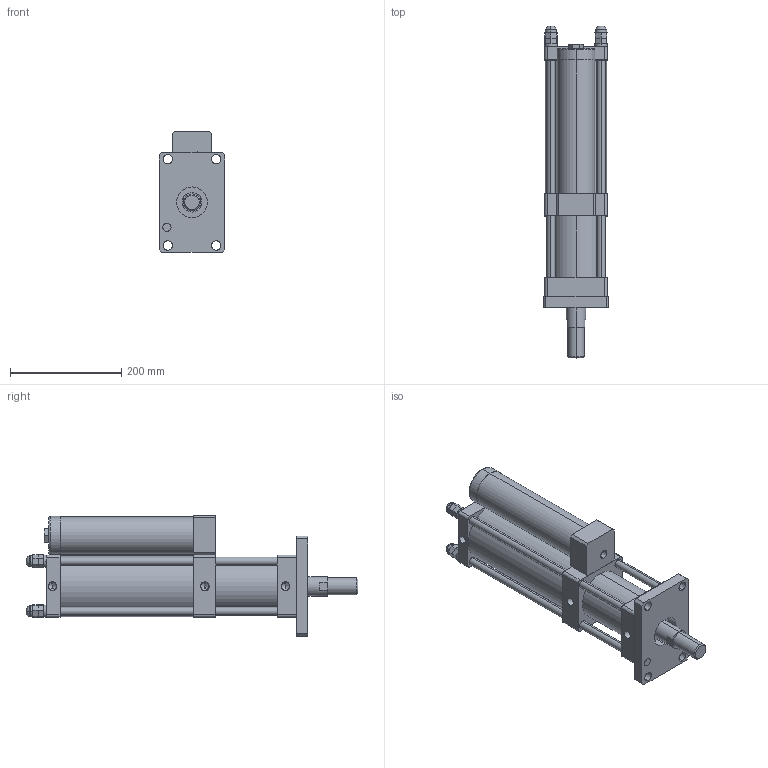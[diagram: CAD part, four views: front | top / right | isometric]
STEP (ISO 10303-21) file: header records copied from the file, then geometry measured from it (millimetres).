
FILE_DESCRIPTION (( 'STEP AP203' ), '1' );
FILE_NAME ('MPTC-80-10-8T.STEP', '2016-03-15T07:27:03', ( 'WIN' ), ( '' ), 'SwSTEP 2.0', 'SolidWorks 2014', '' );
FILE_SCHEMA (( 'CONFIG_CONTROL_DESIGN' ));
Length unit declared in the file: millimetre
Products named in the file (1): MPTC-80-10-8T
Bounding box: 118 x 596.07 x 217 mm (x, y, z)
Volume: 4769797.8 mm3; surface area: 568919.1 mm2
Topology: 17 solids, 17 shells, 390 faces, 959 edges, 558 vertices
Faces by surface type: plane 180, cylinder 90, bspline 48, torus 46, cone 26
Entity records: 12581 total; most frequent: CARTESIAN_POINT 3666, DIRECTION 1874, ORIENTED_EDGE 1786, EDGE_CURVE 893, AXIS2_PLACEMENT_3D 686, VERTEX_POINT 558, VECTOR 502, LINE 502
